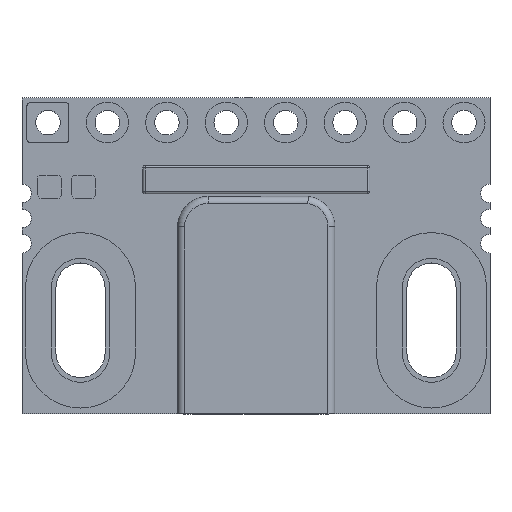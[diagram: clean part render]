
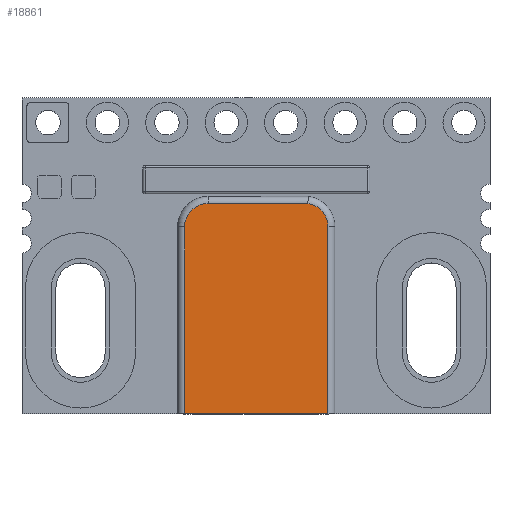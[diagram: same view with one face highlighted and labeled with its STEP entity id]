
A CAD part, top view. The second image highlights one B-rep face of the part: STEP entity #18861.
In plain terms, the highlighted planar face has unit normal (0, 0, 1).
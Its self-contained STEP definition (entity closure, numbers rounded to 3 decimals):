
#373 = DIRECTION ( 'NONE',  ( -1., 0., 0. ) ) ;
#481 = LINE ( 'NONE', #7587, #11861 ) ;
#901 = DIRECTION ( 'NONE',  ( 0., -1., 0. ) ) ;
#1766 = CARTESIAN_POINT ( 'NONE',  ( 11.873, 9.775, 1.013 ) ) ;
#2890 = DIRECTION ( 'NONE',  ( 0., 1., 0. ) ) ;
#2970 = EDGE_LOOP ( 'NONE', ( #3134, #10656, #21467, #8447, #8506, #5177 ) ) ;
#3134 = ORIENTED_EDGE ( 'NONE', *, *, #8841, .T. ) ;
#3137 = DIRECTION ( 'NONE',  ( 1., 0., 0. ) ) ;
#3600 = VERTEX_POINT ( 'NONE', #14712 ) ;
#3748 = LINE ( 'NONE', #19968, #14110 ) ;
#3948 = DIRECTION ( 'NONE',  ( 0., 1., 0. ) ) ;
#4660 = DIRECTION ( 'NONE',  ( 0., 0., -1. ) ) ;
#5177 = ORIENTED_EDGE ( 'NONE', *, *, #13619, .T. ) ;
#6635 = CARTESIAN_POINT ( 'NONE',  ( 5.45, 1.775, 1.013 ) ) ;
#7482 = PLANE ( 'NONE',  #13285 ) ;
#7587 = CARTESIAN_POINT ( 'NONE',  ( 11.873, 9.765, 1.013 ) ) ;
#7705 = EDGE_CURVE ( 'NONE', #12574, #3600, #16131, .T. ) ;
#7790 = AXIS2_PLACEMENT_3D ( 'NONE', #14264, #12128, #8749 ) ;
#8447 = ORIENTED_EDGE ( 'NONE', *, *, #11707, .T. ) ;
#8506 = ORIENTED_EDGE ( 'NONE', *, *, #7705, .T. ) ;
#8611 = AXIS2_PLACEMENT_3D ( 'NONE', #15058, #18878, #2890 ) ;
#8749 = DIRECTION ( 'NONE',  ( 0., 1., 0. ) ) ;
#8841 = EDGE_CURVE ( 'NONE', #19932, #19252, #8908, .T. ) ;
#8908 = CIRCLE ( 'NONE', #7790, 1. ) ;
#9351 = VECTOR ( 'NONE', #901, 1000. ) ;
#10656 = ORIENTED_EDGE ( 'NONE', *, *, #10825, .T. ) ;
#10825 = EDGE_CURVE ( 'NONE', #19252, #18810, #15145, .T. ) ;
#11084 = FACE_OUTER_BOUND ( 'NONE', #2970, .T. ) ;
#11707 = EDGE_CURVE ( 'NONE', #22140, #12574, #481, .T. ) ;
#11861 = VECTOR ( 'NONE', #3948, 1000. ) ;
#12128 = DIRECTION ( 'NONE',  ( 0., 0., 1. ) ) ;
#12574 = VERTEX_POINT ( 'NONE', #1766 ) ;
#13285 = AXIS2_PLACEMENT_3D ( 'NONE', #13785, #4660, #19004 ) ;
#13614 = CARTESIAN_POINT ( 'NONE',  ( 5.75, 1.775, 1.013 ) ) ;
#13619 = EDGE_CURVE ( 'NONE', #3600, #19932, #3748, .T. ) ;
#13785 = CARTESIAN_POINT ( 'NONE',  ( 6.75, 9.765, 1.013 ) ) ;
#14110 = VECTOR ( 'NONE', #373, 1000. ) ;
#14264 = CARTESIAN_POINT ( 'NONE',  ( 6.75, 9.765, 1.013 ) ) ;
#14712 = CARTESIAN_POINT ( 'NONE',  ( 11.015, 10.765, 1.013 ) ) ;
#15058 = CARTESIAN_POINT ( 'NONE',  ( 10.873, 9.775, 1.013 ) ) ;
#15145 = LINE ( 'NONE', #16944, #9351 ) ;
#15399 = CARTESIAN_POINT ( 'NONE',  ( 5.75, 9.765, 1.013 ) ) ;
#15528 = LINE ( 'NONE', #6635, #20782 ) ;
#16131 = CIRCLE ( 'NONE', #8611, 1. ) ;
#16944 = CARTESIAN_POINT ( 'NONE',  ( 5.75, 9.765, 1.013 ) ) ;
#17342 = EDGE_CURVE ( 'NONE', #18810, #22140, #15528, .T. ) ;
#17545 = CARTESIAN_POINT ( 'NONE',  ( 6.75, 10.765, 1.013 ) ) ;
#18810 = VERTEX_POINT ( 'NONE', #13614 ) ;
#18861 = ADVANCED_FACE ( 'NONE', ( #11084 ), #7482, .F. ) ;
#18878 = DIRECTION ( 'NONE',  ( 0., 0., 1. ) ) ;
#19004 = DIRECTION ( 'NONE',  ( 0., 1., 0. ) ) ;
#19252 = VERTEX_POINT ( 'NONE', #15399 ) ;
#19932 = VERTEX_POINT ( 'NONE', #17545 ) ;
#19968 = CARTESIAN_POINT ( 'NONE',  ( 6.75, 10.765, 1.013 ) ) ;
#20782 = VECTOR ( 'NONE', #3137, 1000. ) ;
#21467 = ORIENTED_EDGE ( 'NONE', *, *, #17342, .T. ) ;
#21927 = CARTESIAN_POINT ( 'NONE',  ( 11.873, 1.775, 1.013 ) ) ;
#22140 = VERTEX_POINT ( 'NONE', #21927 ) ;
